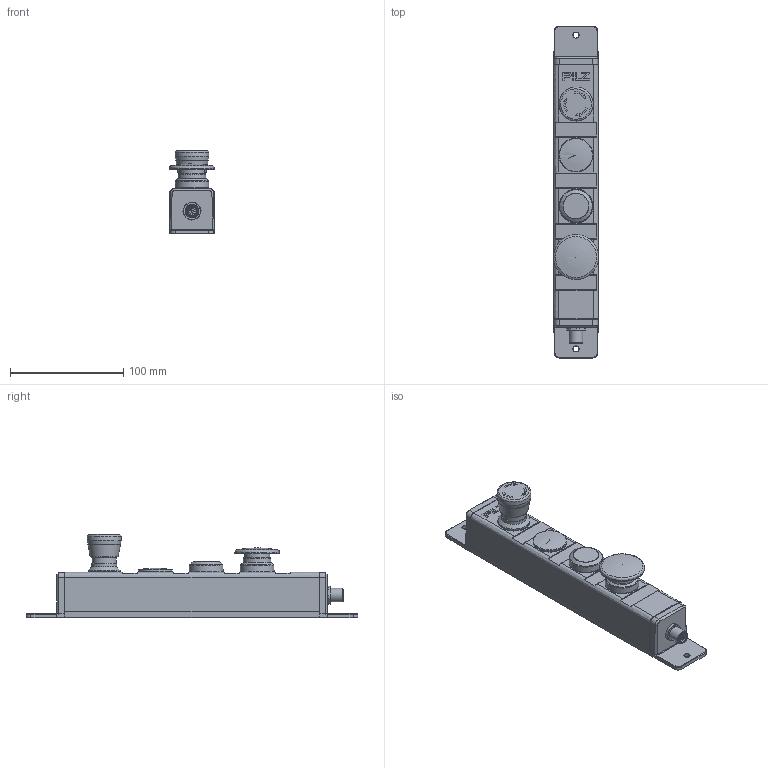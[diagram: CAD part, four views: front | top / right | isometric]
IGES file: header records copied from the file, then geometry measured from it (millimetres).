
Global section: file name: 2032037__PIT_gb_VCME; native system: Autodesk Inventor 2022; preprocessor: unknown; date: 20220203.165432; units: millimetre
Bounding box: 40 x 293 x 73.65 mm (x, y, z)
Volume: 422181.5 mm3; surface area: 58788.5 mm2
Topology: 1 solids, 27 shells, 748 faces, 1861 edges, 1200 vertices
Faces by surface type: bspline 748
